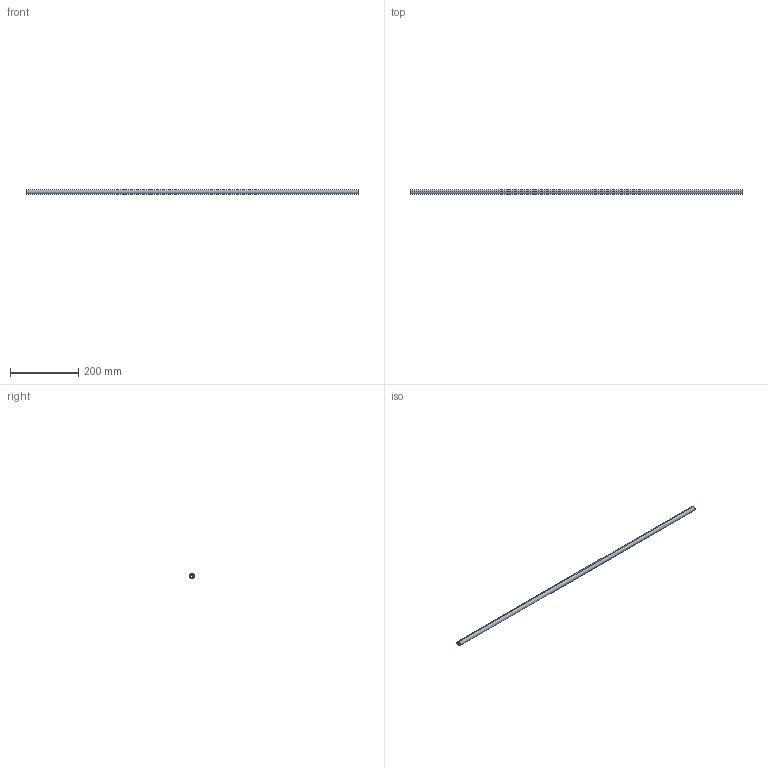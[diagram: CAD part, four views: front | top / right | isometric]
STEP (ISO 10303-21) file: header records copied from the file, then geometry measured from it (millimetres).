
FILE_DESCRIPTION (( 'STEP AP214' ), '1' );
FILE_NAME ('SyncronisationsstangeXP_KAB_1100_16.step', '2009-11-24T08:53:27', ( 'Grass' ), ( 'Grass GmbH' ), 'SwSTEP 2.0', 'SolidWorks 2009', '' );
FILE_SCHEMA (( 'AUTOMOTIVE_DESIGN' ));
Length unit declared in the file: millimetre
Products named in the file (1): SyncronisationsstangeXP_KAB_1100_16
Bounding box: 971 x 14 x 14 mm (x, y, z)
Volume: 104994 mm3; surface area: 67665 mm2
Topology: 1 solids, 1 shells, 15 faces, 39 edges, 26 vertices
Faces by surface type: cylinder 11, plane 4
Entity records: 513 total; most frequent: DIRECTION 93, CARTESIAN_POINT 81, ORIENTED_EDGE 78, EDGE_CURVE 39, AXIS2_PLACEMENT_3D 38, VERTEX_POINT 26, CIRCLE 22, VECTOR 17
